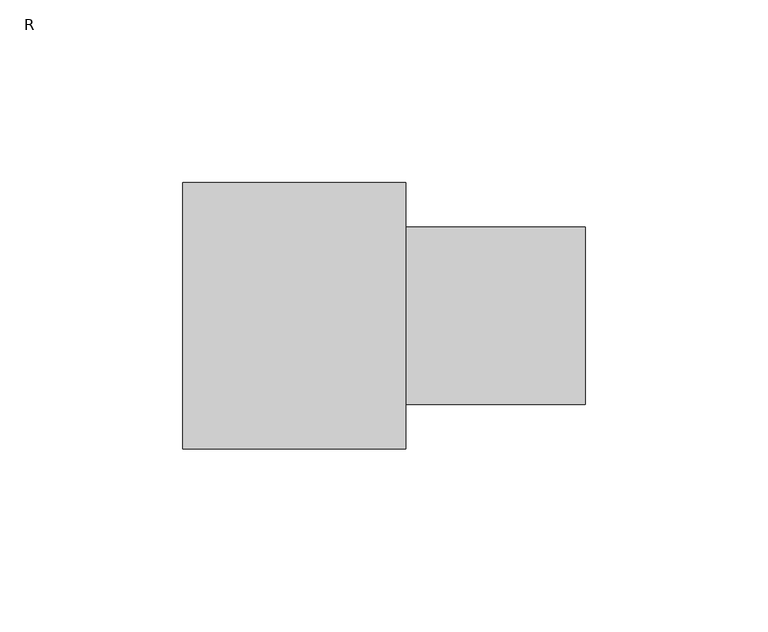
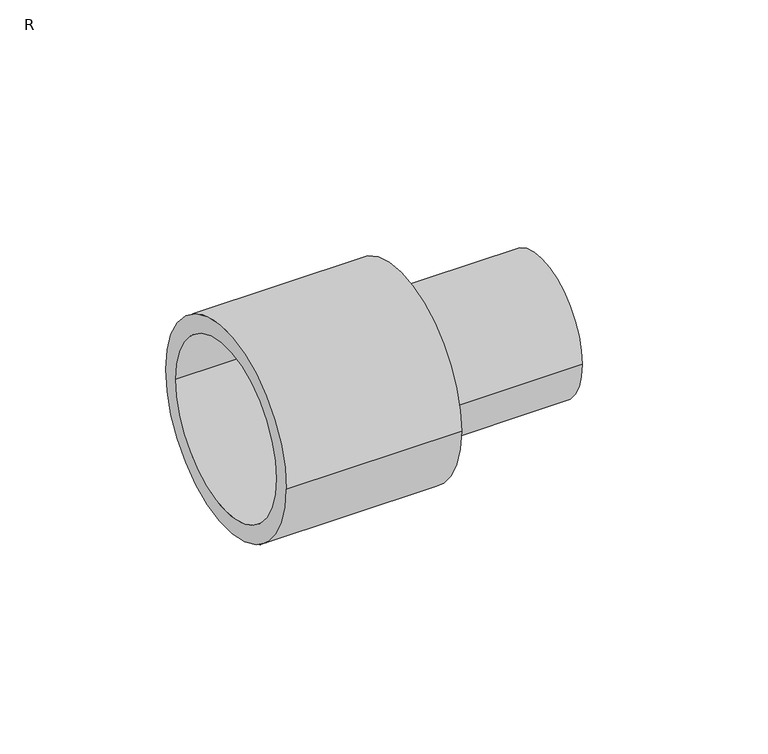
"""IFC4 building model written with IfcOpenShell, lengths in millimetres: pipe fitting geometry, FUSAPEX reducer : R."""

from ifc_helpers import new_model, si_unit, frame, origin, place, context, project, spatial, polyline, circle_curve, source, transform, mapped, element, save
from ifc_brep_helpers import plane_surface, cylinder_surface, revolved_surface, advanced_brep


def r_4e7d908a(model_context):
    return source(origin(), model_context, "Body", "AdvancedBrep", [
        advanced_brep(
        [(-61.0, 30.25, 0.0), (-61.0, -30.25, 0.0), (-12.0, -30.25, 0.0), (-12.0, 30.25, 0.0), (0.0, 36.4, 0.0), (0.0, -36.4, 0.0), (-61.0, -36.4, 0.0), (-61.0, 36.4, 0.0), (49.0, 24.25, 0.0), (49.0, -24.25, 0.0), (0.0, -24.25, 0.0), (0.0, 24.25, 0.0), (-12.0, 20.0, 0.0), (-12.0, -20.0, 0.0), (49.0, -20.0, 0.0), (49.0, 20.0, 0.0)],
        [
            (0, 1, circle_curve(frame((-61.0, 0.0, 0.0), z_axis=(-1.0, 0.0, 0.0), x_axis=(0.0, -1.0, 0.0)), 30.25)),
            (1, 2),
            (2, 3, circle_curve(frame((-12.0, 0.0, 0.0), z_axis=(1.0, 0.0, 0.0), x_axis=(0.0, -1.0, 0.0)), 30.25)),
            (3, 0),
            (4, 5, circle_curve(frame((0.0, 0.0, 0.0), z_axis=(-1.0, 0.0, 0.0), x_axis=(0.0, -1.0, 0.0)), 36.4)),
            (5, 6),
            (6, 7, circle_curve(frame((-61.0, 0.0, 0.0), z_axis=(1.0, 0.0, 0.0), x_axis=(0.0, -1.0, 0.0)), 36.4)),
            (7, 4),
            (8, 9, circle_curve(frame((49.0, 0.0, 0.0), z_axis=(-1.0, 0.0, 0.0), x_axis=(0.0, -1.0, 0.0)), 24.25)),
            (9, 10),
            (10, 11, circle_curve(frame((0.0, 0.0, 0.0), z_axis=(1.0, 0.0, 0.0), x_axis=(0.0, -1.0, 0.0)), 24.25)),
            (11, 8),
            (12, 13, circle_curve(frame((-12.0, 0.0, 0.0), z_axis=(-1.0, 0.0, 0.0), x_axis=(0.0, -1.0, 0.0)), 20.0)),
            (13, 14),
            (14, 15, circle_curve(frame((49.0, 0.0, 0.0), z_axis=(1.0, 0.0, 0.0), x_axis=(0.0, -1.0, 0.0)), 20.0)),
            (15, 12),
            (1, 0, circle_curve(frame((-61.0, 0.0, 0.0), z_axis=(-1.0, 0.0, 0.0), x_axis=(0.0, 1.0, 0.0)), 30.25)),
            (3, 2, circle_curve(frame((-12.0, 0.0, 0.0), z_axis=(1.0, 0.0, 0.0), x_axis=(0.0, 1.0, 0.0)), 30.25)),
            (6, 7, circle_curve(frame((-61.0, 0.0, 0.0), z_axis=(-1.0, 0.0, 0.0), x_axis=(0.0, 1.0, 0.0)), 36.4)),
            (5, 4, circle_curve(frame((0.0, 0.0, 0.0), z_axis=(-1.0, 0.0, 0.0), x_axis=(0.0, 1.0, 0.0)), 36.4)),
            (10, 11, circle_curve(frame((0.0, 0.0, 0.0), z_axis=(-1.0, 0.0, 0.0), x_axis=(0.0, 1.0, 0.0)), 24.25)),
            (9, 8, circle_curve(frame((49.0, 0.0, 0.0), z_axis=(-1.0, 0.0, 0.0), x_axis=(0.0, 1.0, 0.0)), 24.25)),
            (14, 15, circle_curve(frame((49.0, 0.0, 0.0), z_axis=(-1.0, 0.0, 0.0), x_axis=(0.0, 1.0, 0.0)), 20.0)),
            (13, 12, circle_curve(frame((-12.0, 0.0, 0.0), z_axis=(-1.0, 0.0, 0.0), x_axis=(0.0, 1.0, 0.0)), 20.0)),
        ],
        [
            revolved_surface(polyline([(-12.0, -30.25, 0.0), (-61.0, -30.25, 0.0)]), (0.0, 0.0, 0.0), (1.0, 0.0, 0.0)),
            cylinder_surface(frame((0.0, 0.0, 0.0), z_axis=(1.0, 0.0, 0.0), x_axis=(0.0, -1.0, 0.0)), 36.4),
            cylinder_surface(frame((0.0, 0.0, 0.0), z_axis=(1.0, 0.0, 0.0), x_axis=(0.0, -1.0, 0.0)), 24.25),
            revolved_surface(polyline([(49.0, -20.0, 0.0), (-12.0, -20.0, 0.0)]), (0.0, 0.0, 0.0), (1.0, 0.0, 0.0)),
            revolved_surface(polyline([(-12.0, 30.25, 0.0), (-61.0, 30.25, 0.0)]), (0.0, 0.0, 0.0), (1.0, 0.0, 0.0)),
            plane_surface(frame((-61.0, 0.0, 0.0), z_axis=(-1.0, 0.0, 0.0), x_axis=(0.0, 1.0, 0.0))),
            cylinder_surface(frame((0.0, 0.0, 0.0), z_axis=(1.0, 0.0, 0.0), x_axis=(0.0, 1.0, 0.0)), 36.4),
            plane_surface(frame((0.0, 0.0, 0.0), z_axis=(1.0, 0.0, 0.0), x_axis=(0.0, 1.0, 0.0))),
            cylinder_surface(frame((0.0, 0.0, 0.0), z_axis=(1.0, 0.0, 0.0), x_axis=(0.0, 1.0, 0.0)), 24.25),
            plane_surface(frame((49.0, 0.0, 0.0), z_axis=(1.0, 0.0, 0.0), x_axis=(0.0, 1.0, 0.0))),
            revolved_surface(polyline([(49.0, 20.0, 0.0), (-12.0, 20.0, 0.0)]), (0.0, 0.0, 0.0), (1.0, 0.0, 0.0)),
            plane_surface(frame((-12.0, 0.0, 0.0), z_axis=(-1.0, 0.0, 0.0), x_axis=(0.0, 1.0, 0.0))),
        ],
        [
            (0, [[1, 2, 3, 4]]),
            (1, [[5, 6, 7, 8]]),
            (2, [[9, 10, 11, 12]]),
            (3, [[13, 14, 15, 16]]),
            (4, [[17, -4, 18, -2]]),
            (5, [[19, -7], [-17, -1]]),
            (6, [[20, -8, -19, -6]]),
            (7, [[-20, -5], [21, -11]]),
            (8, [[22, -12, -21, -10]]),
            (9, [[-22, -9], [23, -15]]),
            (10, [[24, -16, -23, -14]]),
            (11, [[-18, -3], [-24, -13]]),
        ],
    ),
    ])


if __name__ == "__main__":
    model = new_model("IFC4")
    model_context = context("Model", 3, world=origin())
    ifc_project = project(units=[si_unit("LENGTHUNIT", "METRE", prefix="MILLI")], contexts=[model_context])
    site = spatial("IfcSite", under=ifc_project)
    building = spatial("IfcBuilding", under=site)
    placement = place(None, origin())
    r_shape = r_4e7d908a(model_context)
    element("IfcPipeFitting", 1, ObjectType="FUSAPEX reducer : R", at=placement, inside=building, context=model_context, shape_type="MappedRepresentation", body=[
        mapped(r_shape, transform((0.0, 0.0, 0.0), x_axis=(1.0, 0.0, 0.0), y_axis=(0.0, 1.0, 0.0), z_axis=(0.0, 0.0, 1.0))),
    ])
    save(model, "model.ifc")
